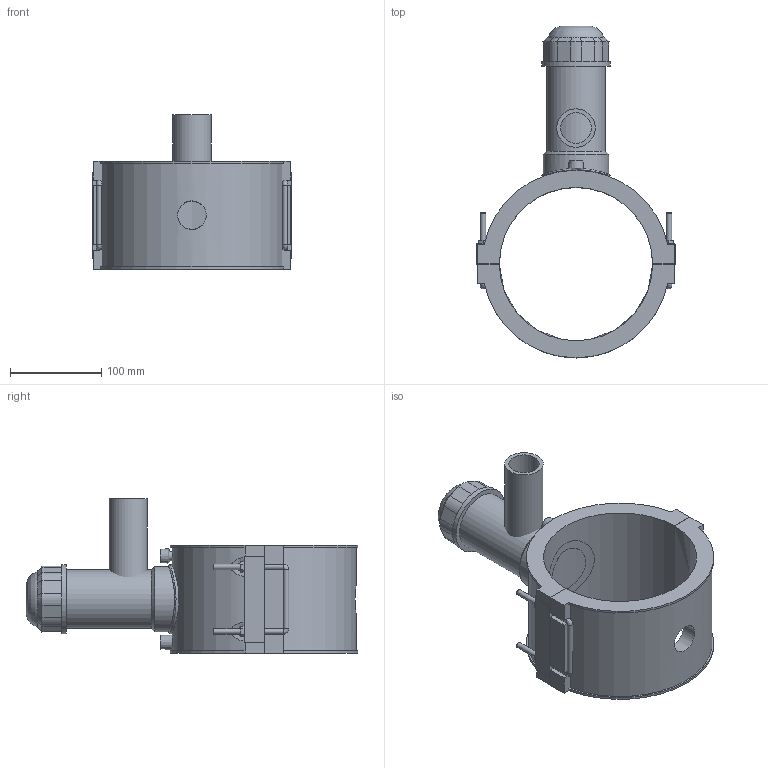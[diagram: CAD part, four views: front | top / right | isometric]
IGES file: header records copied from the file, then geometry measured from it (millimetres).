
Global section: file name: 5963BBP3060013.ipt; native system: Autodesk Inventor 2019; preprocessor: unknown; author: KIM; date: 20210830.101544; units: inch
Bounding box: 217.9 x 363.85 x 169.04 mm (x, y, z)
Volume: 1630150 mm3; surface area: 284812 mm2
Topology: 3 solids, 4 shells, 185 faces, 464 edges, 293 vertices
Faces by surface type: plane 115, cylinder 33, cone 15, revolution 13, bspline 9
Full cylindrical faces by diameter (mm): 4 x2, 6 x10, 42.1 x1, 64.26 x1, 71.82 x1, 75.6 x2
